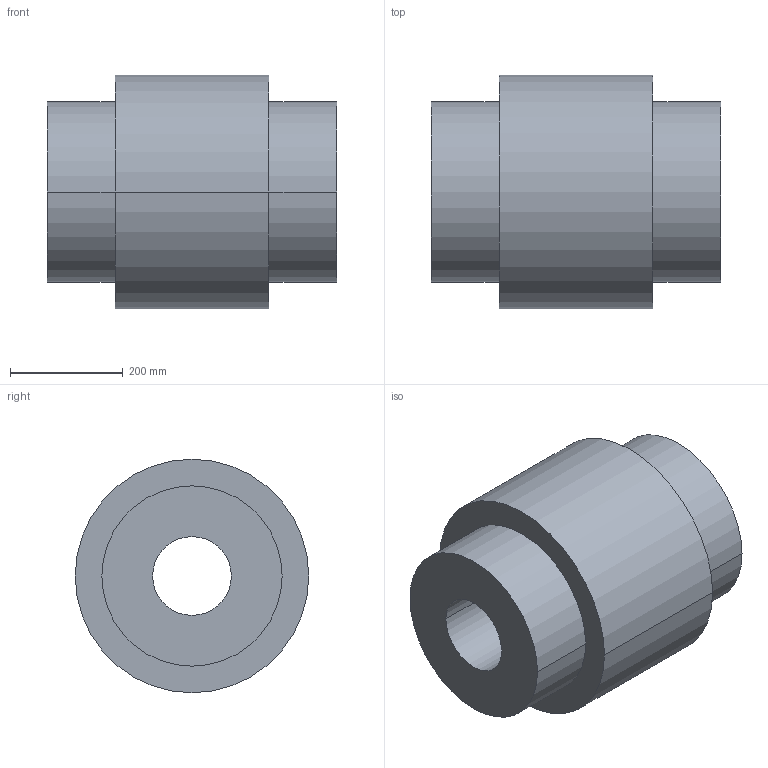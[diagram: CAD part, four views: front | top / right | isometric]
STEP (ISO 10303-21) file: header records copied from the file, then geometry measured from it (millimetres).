
FILE_DESCRIPTION((''),'2;1');
FILE_NAME('A19133900-0_ASM','2018-11-15T',('AB_Roschiwal'),('RENK AG'),'PRO/ENGINEER BY PARAMETRIC TECHNOLOGY CORPORATION, 2015440','PRO/ENGINEER BY PARAMETRIC TECHNOLOGY CORPORATION, 2015440','');
FILE_SCHEMA(('CONFIG_CONTROL_DESIGN'));
Length unit declared in the file: millimetre
Products named in the file (3): HBK200_GEHAEUSE; HBK200_NABE; A19133900-0_ASM
Assembly tree (3 placements, depth 2):
  A19133900-0_ASM
    HBK200_GEHAEUSE
    HBK200_NABE  x2
Bounding box: 514 x 415 x 415 mm (x, y, z)
Volume: 43791697.5 mm3; surface area: 1948766.4 mm2
Topology: 3 solids, 3 shells, 36 faces, 72 edges, 48 vertices
Faces by surface type: cylinder 24, plane 12
Entity records: 748 total; most frequent: DIRECTION 140, CARTESIAN_POINT 110, ORIENTED_EDGE 96, AXIS2_PLACEMENT_3D 62, EDGE_CURVE 48, VERTEX_POINT 32, EDGE_LOOP 32, CIRCLE 32
